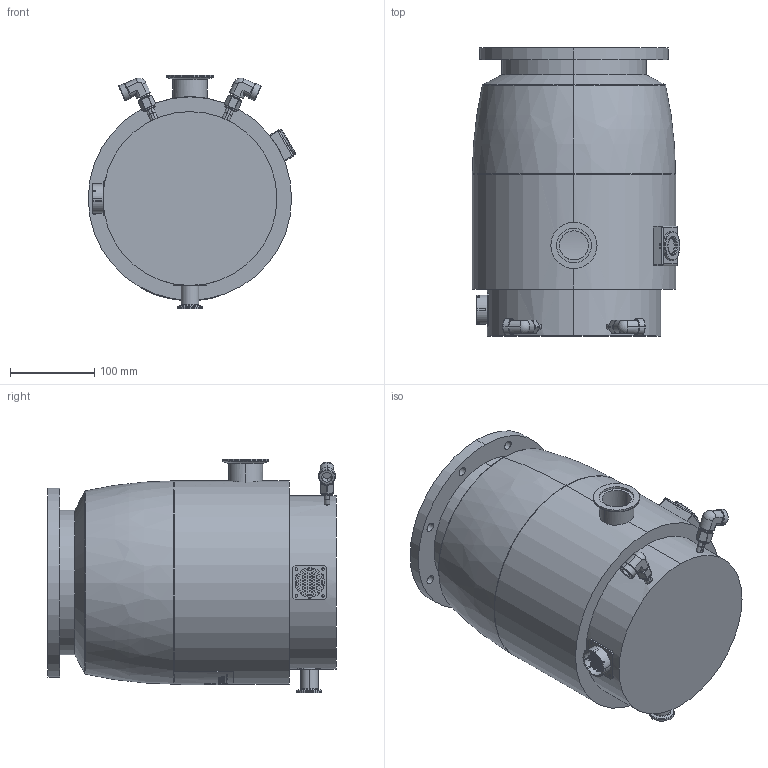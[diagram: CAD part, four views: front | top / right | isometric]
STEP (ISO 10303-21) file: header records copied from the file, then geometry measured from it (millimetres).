
FILE_DESCRIPTION((''),'2;1');
FILE_NAME('ENV-1300M-M2462100','2007-02-02T',('NVARENNES'),(''),'PRO/ENGINEER BY PARAMETRIC TECHNOLOGY CORPORATION, 2006200','PRO/ENGINEER BY PARAMETRIC TECHNOLOGY CORPORATION, 2006200','');
FILE_SCHEMA(('CONFIG_CONTROL_DESIGN'));
Length unit declared in the file: millimetre
Products named in the file (1): ENV-1300M-M2462100
Bounding box: 246.97 x 342.93 x 278.5 mm (x, y, z)
Volume: 14035678.8 mm3; surface area: 411757.8 mm2
Topology: 1 solids, 5 shells, 855 faces, 2147 edges, 1302 vertices
Faces by surface type: cylinder 298, plane 213, bspline 172, sphere 112, cone 32, torus 28
Entity records: 32651 total; most frequent: CARTESIAN_POINT 12634, ORIENTED_EDGE 4070, DIRECTION 3780, EDGE_CURVE 2035, AXIS2_PLACEMENT_3D 1483, VERTEX_POINT 1302, EDGE_LOOP 999, FACE_OUTER_BOUND 855
